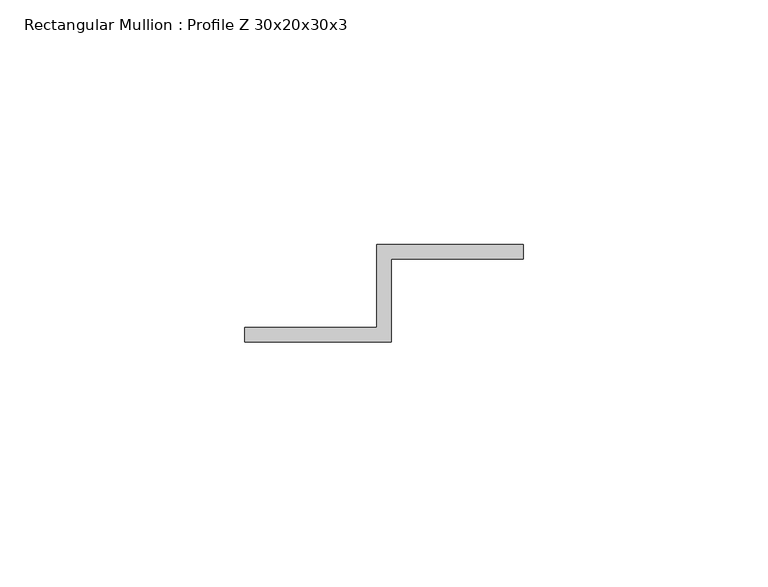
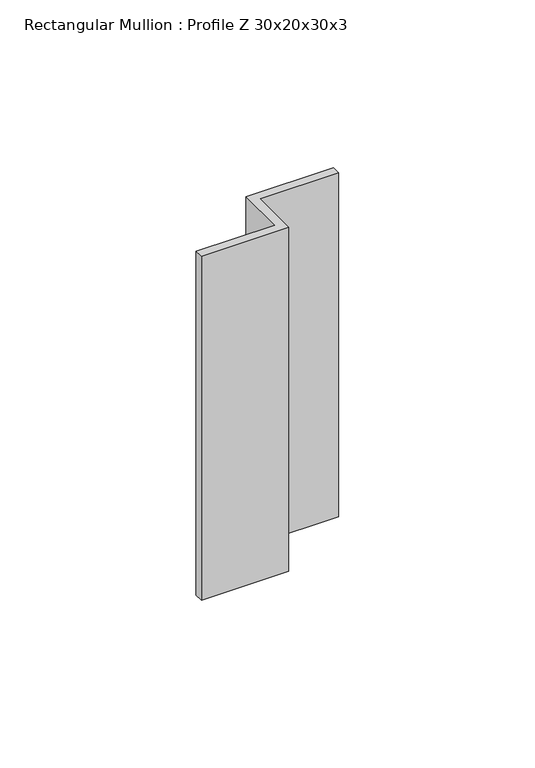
"""IFC4 building model written with IfcOpenShell, lengths in millimetres: member geometry, Rectangular Mullion : Profile Z 30x20x30x3."""

from ifc_helpers import new_model, si_unit, frame, origin, place, context, project, spatial, polyline, outline, extrude, source, transform, mapped, element, save


def rectangular_mullion_profile_z_30x20x30x3_c05b1c9d(model_context):
    return source(origin(), model_context, "Body", "SweptSolid", [
        extrude(outline(polyline([(-33.0, -29.5), (-3.0, -29.5), (-3.0, -32.5), (-30.0, -32.5), (-30.0, -49.5), (-60.0, -49.5), (-60.0, -46.5), (-33.0, -46.5), (-33.0, -29.5)])), frame((0.0, 0.0, -125.0000001), z_axis=(0.0, 0.0, 1.0), x_axis=(1.0, 0.0, 0.0)), (0.0, 0.0, 1.0), 125.0000001),
    ])


if __name__ == "__main__":
    model = new_model("IFC4")
    model_context = context("Model", 3, world=origin())
    ifc_project = project(units=[si_unit("LENGTHUNIT", "METRE", prefix="MILLI")], contexts=[model_context])
    site = spatial("IfcSite", under=ifc_project)
    building = spatial("IfcBuilding", under=site)
    placement = place(None, origin())
    rectangular_mullion_profile_z_30x20x30x3_shape = rectangular_mullion_profile_z_30x20x30x3_c05b1c9d(model_context)
    element("IfcMember", 1, ObjectType="Rectangular Mullion : Profile Z 30x20x30x3", at=placement, inside=building, context=model_context, shape_type="MappedRepresentation", body=[
        mapped(rectangular_mullion_profile_z_30x20x30x3_shape, transform((0.0, 0.0, 0.0), x_axis=(1.0, 0.0, 0.0), y_axis=(0.0, 1.0, 0.0), z_axis=(0.0, 0.0, 1.0))),
    ])
    save(model, "model.ifc")
